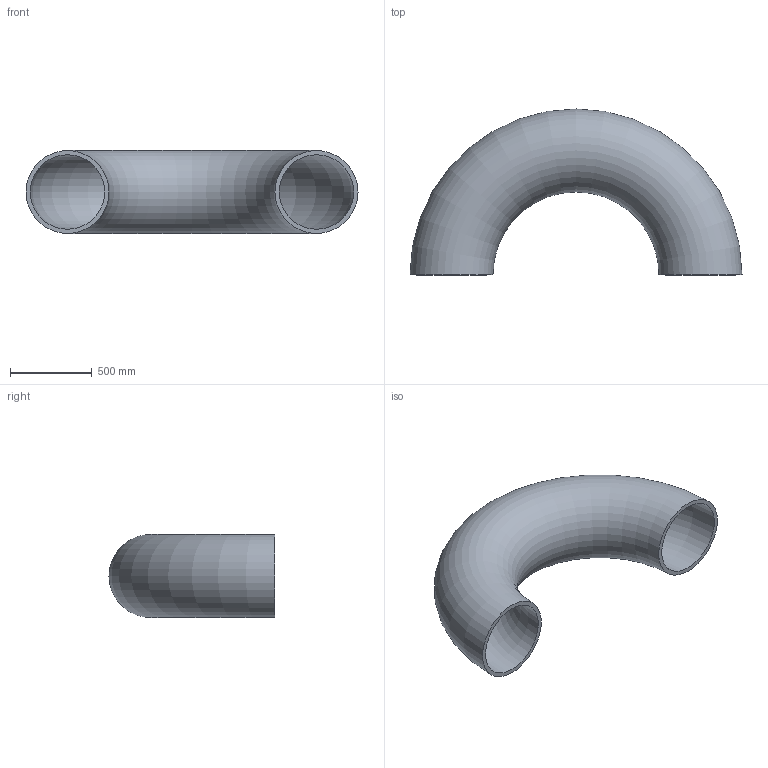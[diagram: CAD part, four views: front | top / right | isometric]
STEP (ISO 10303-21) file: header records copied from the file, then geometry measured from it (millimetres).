
FILE_DESCRIPTION(/* description */ (''),/* implementation_level */ '2;1');
FILE_NAME(/* name */ 'C:\Users\D\Documents\Inventor\HP\JIS\配管\エルボ ロング 180°\Sch80\Elbow180-long-500A-Sch80.stp',/* time_stamp */ '2022-06-14T14:55:22+09:00',/* author */ ('D'),/* organization */ (''),/* preprocessor_version */ 'ST-DEVELOPER v18',/* originating_system */ 'Autodesk Inventor 2020',/* authorisation */ '');
FILE_SCHEMA (('AUTOMOTIVE_DESIGN { 1 0 10303 214 3 1 1 }'));
Length unit declared in the file: millimetre
Products named in the file (1): Elbow-long-90-15A-SGP
Bounding box: 2032 x 1016 x 508 mm (x, y, z)
Volume: 94934223.8 mm3; surface area: 7326201 mm2
Topology: 1 solids, 1 shells, 4 faces, 10 edges, 8 vertices
Faces by surface type: torus 2, plane 2
Entity records: 181 total; most frequent: DIRECTION 30, CARTESIAN_POINT 23, ORIENTED_EDGE 20, AXIS2_PLACEMENT_3D 15, CIRCLE 10, EDGE_CURVE 10, VERTEX_POINT 8, EDGE_LOOP 6
